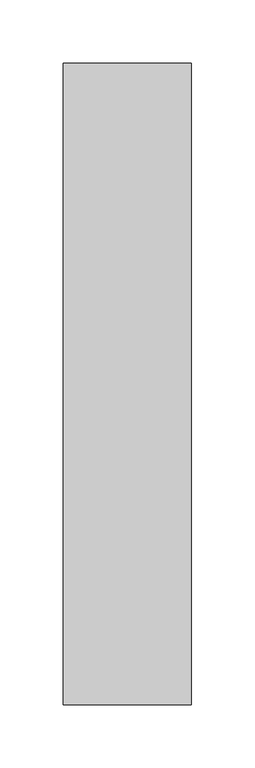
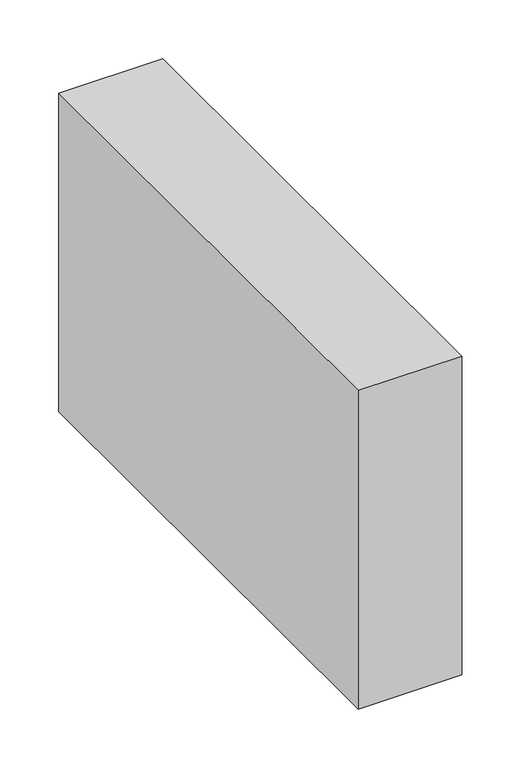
"""IFC4 building model written with IfcOpenShell, lengths in millimetres: furniture geometry, Coalesse_AM_Table_Occasional_Await_Connector : 20D - No Tablet."""

from ifc_helpers import new_model, si_unit, frame, origin, place, context, project, spatial, polyline, outline, extrude, source, transform, mapped, element, save


def furniture_49ca60f9(model_context):
    return source(origin(), model_context, "Body", "SweptSolid", [
        extrude(outline(polyline([(-613.117922, 190.8403236), (-613.117922, -317.1596764), (-714.717922, -317.1596764), (-714.717922, 190.8403236), (-613.117922, 190.8403236)])), frame((0.0, 0.0, 57.15), z_axis=(0.0, 0.0, 1.0), x_axis=(1.0, 0.0, 0.0)), (0.0, 0.0, 1.0), 330.2),
    ])


if __name__ == "__main__":
    model = new_model("IFC4")
    model_context = context("Model", 3, world=origin())
    ifc_project = project(units=[si_unit("LENGTHUNIT", "METRE", prefix="MILLI")], contexts=[model_context])
    site = spatial("IfcSite", under=ifc_project)
    building = spatial("IfcBuilding", under=site)
    placement = place(None, origin())
    furniture_shape = furniture_49ca60f9(model_context)
    element("IfcFurniture", 1, ObjectType="Coalesse_AM_Table_Occasional_Await_Connector : 20D - No Tablet", at=placement, inside=building, context=model_context, shape_type="MappedRepresentation", body=[
        mapped(furniture_shape, transform((0.0, 0.0, 0.0), x_axis=(1.0, 0.0, 0.0), y_axis=(0.0, 1.0, 0.0), z_axis=(0.0, 0.0, 1.0))),
    ])
    save(model, "model.ifc")
